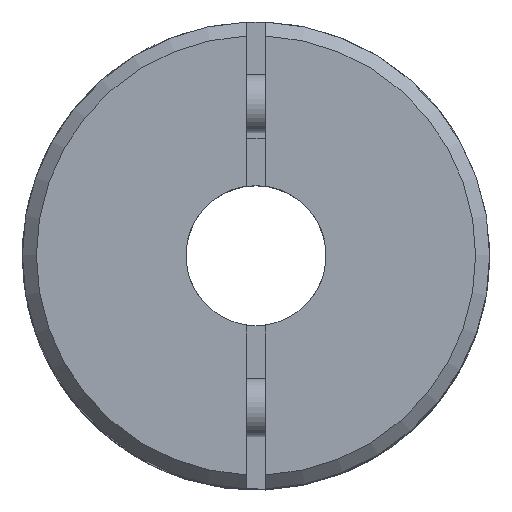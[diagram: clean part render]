
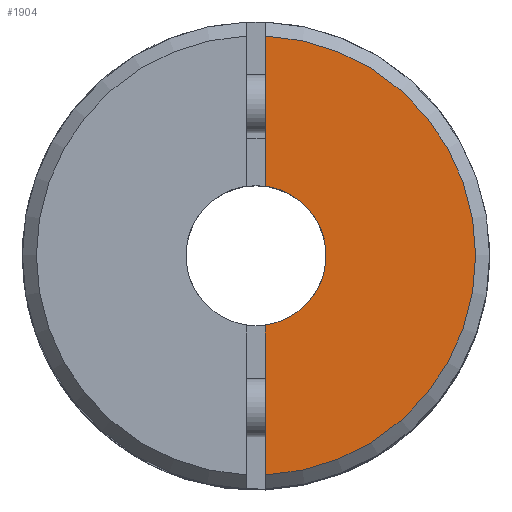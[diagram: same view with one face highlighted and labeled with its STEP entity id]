
A CAD part, top view. The second image highlights one B-rep face of the part: STEP entity #1904.
In plain terms, the highlighted planar face has unit normal (0, 0, 1).
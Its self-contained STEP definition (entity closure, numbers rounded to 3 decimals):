
#34 = CARTESIAN_POINT ( 'NONE',  ( 0., 1.5, 13. ) ) ;
#468 = CARTESIAN_POINT ( 'NONE',  ( 0.4, -2.973, 13. ) ) ;
#578 = EDGE_LOOP ( 'NONE', ( #3797, #2032, #3363, #2709 ) ) ;
#590 = DIRECTION ( 'NONE',  ( 0., -1., 0. ) ) ;
#689 = LINE ( 'NONE', #3412, #1662 ) ;
#704 = DIRECTION ( 'NONE',  ( 0., 1., 0. ) ) ;
#724 = CARTESIAN_POINT ( 'NONE',  ( 0.4, 9.391, 13. ) ) ;
#837 = EDGE_CURVE ( 'NONE', #4418, #2599, #2320, .T. ) ;
#892 = CARTESIAN_POINT ( 'NONE',  ( 0.4, -9.391, 13. ) ) ;
#1065 = VERTEX_POINT ( 'NONE', #2848 ) ;
#1215 = AXIS2_PLACEMENT_3D ( 'NONE', #2600, #1924, #1876 ) ;
#1473 = EDGE_CURVE ( 'NONE', #1516, #1065, #3460, .T. ) ;
#1509 = AXIS2_PLACEMENT_3D ( 'NONE', #34, #2586, #2520 ) ;
#1516 = VERTEX_POINT ( 'NONE', #468 ) ;
#1662 = VECTOR ( 'NONE', #3039, 1000. ) ;
#1832 = PLANE ( 'NONE',  #1509 ) ;
#1876 = DIRECTION ( 'NONE',  ( 1., 0., 0. ) ) ;
#1904 = ADVANCED_FACE ( 'NONE', ( #3241 ), #1832, .F. ) ;
#1924 = DIRECTION ( 'NONE',  ( 0., 0., 1. ) ) ;
#2032 = ORIENTED_EDGE ( 'NONE', *, *, #1473, .F. ) ;
#2320 = CIRCLE ( 'NONE', #3304, 9.4 ) ;
#2520 = DIRECTION ( 'NONE',  ( 0., 1., 0. ) ) ;
#2586 = DIRECTION ( 'NONE',  ( 0., 0., -1. ) ) ;
#2599 = VERTEX_POINT ( 'NONE', #724 ) ;
#2600 = CARTESIAN_POINT ( 'NONE',  ( 0., 0., 13. ) ) ;
#2709 = ORIENTED_EDGE ( 'NONE', *, *, #837, .T. ) ;
#2848 = CARTESIAN_POINT ( 'NONE',  ( 0.4, 2.973, 13. ) ) ;
#3037 = EDGE_CURVE ( 'NONE', #1516, #4418, #689, .T. ) ;
#3039 = DIRECTION ( 'NONE',  ( 0., -1., 0. ) ) ;
#3220 = CARTESIAN_POINT ( 'NONE',  ( 0., 0., 13. ) ) ;
#3241 = FACE_OUTER_BOUND ( 'NONE', #578, .T. ) ;
#3304 = AXIS2_PLACEMENT_3D ( 'NONE', #3220, #3510, #704 ) ;
#3363 = ORIENTED_EDGE ( 'NONE', *, *, #3037, .T. ) ;
#3412 = CARTESIAN_POINT ( 'NONE',  ( 0.4, 15., 13. ) ) ;
#3460 = CIRCLE ( 'NONE', #1215, 3. ) ;
#3510 = DIRECTION ( 'NONE',  ( 0., 0., 1. ) ) ;
#3650 = EDGE_CURVE ( 'NONE', #2599, #1065, #4404, .T. ) ;
#3797 = ORIENTED_EDGE ( 'NONE', *, *, #3650, .T. ) ;
#4064 = VECTOR ( 'NONE', #590, 1000. ) ;
#4130 = CARTESIAN_POINT ( 'NONE',  ( 0.4, 15., 13. ) ) ;
#4404 = LINE ( 'NONE', #4130, #4064 ) ;
#4418 = VERTEX_POINT ( 'NONE', #892 ) ;
